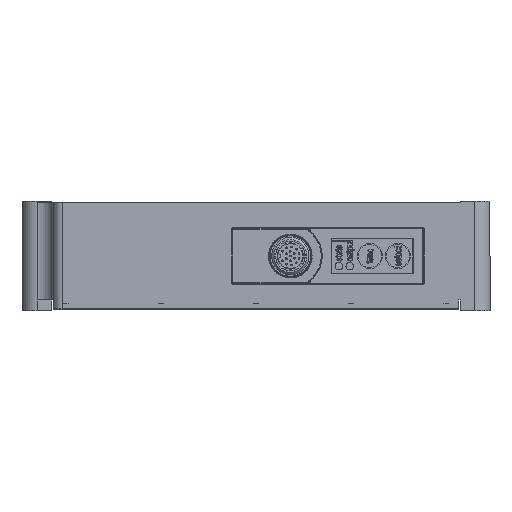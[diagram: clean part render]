
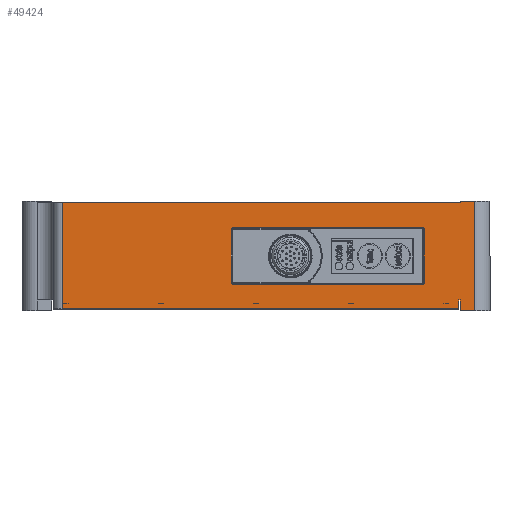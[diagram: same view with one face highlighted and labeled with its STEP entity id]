
A CAD part, left-side view. The second image highlights one B-rep face of the part: STEP entity #49424.
In plain terms, the highlighted planar face has unit normal (-1, 0, 0).
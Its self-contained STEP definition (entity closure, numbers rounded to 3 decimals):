
#667 = ORIENTED_EDGE ( 'NONE', *, *, #90499, .T. ) ;
#756 = DIRECTION ( 'NONE',  ( 0., 0., -1. ) ) ;
#903 = EDGE_CURVE ( 'NONE', #20710, #56727, #53182, .T. ) ;
#3544 = VERTEX_POINT ( 'NONE', #80439 ) ;
#5628 = VERTEX_POINT ( 'NONE', #28597 ) ;
#5887 = CARTESIAN_POINT ( 'NONE',  ( -80., 0., 3. ) ) ;
#6151 = ORIENTED_EDGE ( 'NONE', *, *, #15211, .F. ) ;
#6764 = DIRECTION ( 'NONE',  ( 1., 0., 0. ) ) ;
#7430 = PLANE ( 'NONE',  #28464 ) ;
#7732 = VECTOR ( 'NONE', #84966, 1000. ) ;
#10101 = LINE ( 'NONE', #32922, #68524 ) ;
#10209 = LINE ( 'NONE', #17957, #24334 ) ;
#11270 = ORIENTED_EDGE ( 'NONE', *, *, #52981, .F. ) ;
#11901 = CARTESIAN_POINT ( 'NONE',  ( -80., -0.4, -0.4 ) ) ;
#12112 = ORIENTED_EDGE ( 'NONE', *, *, #50638, .T. ) ;
#12732 = ORIENTED_EDGE ( 'NONE', *, *, #58825, .T. ) ;
#13074 = DIRECTION ( 'NONE',  ( 0., 0., -1. ) ) ;
#13316 = VERTEX_POINT ( 'NONE', #39112 ) ;
#14676 = VECTOR ( 'NONE', #44915, 1000. ) ;
#14681 = CARTESIAN_POINT ( 'NONE',  ( -80., 0., 0.2 ) ) ;
#14814 = DIRECTION ( 'NONE',  ( 0., 0., -1. ) ) ;
#15211 = EDGE_CURVE ( 'NONE', #90458, #3544, #69981, .T. ) ;
#15274 = VERTEX_POINT ( 'NONE', #56400 ) ;
#16815 = EDGE_CURVE ( 'NONE', #5628, #88852, #76599, .T. ) ;
#17290 = DIRECTION ( 'NONE',  ( 0., -1., 0. ) ) ;
#17957 = CARTESIAN_POINT ( 'NONE',  ( -80., 0., 0.2 ) ) ;
#18348 = CARTESIAN_POINT ( 'NONE',  ( -80., 11.85, 26.3 ) ) ;
#19536 = ORIENTED_EDGE ( 'NONE', *, *, #16815, .T. ) ;
#20710 = VERTEX_POINT ( 'NONE', #27765 ) ;
#20829 = CIRCLE ( 'NONE', #22474, 0.8 ) ;
#22474 = AXIS2_PLACEMENT_3D ( 'NONE', #81224, #52217, #14814 ) ;
#23121 = DIRECTION ( 'NONE',  ( 0., 1., 0. ) ) ;
#24204 = DIRECTION ( 'NONE',  ( 0., -1., 0. ) ) ;
#24308 = CARTESIAN_POINT ( 'NONE',  ( -80., 72.95, 34.6 ) ) ;
#24334 = VECTOR ( 'NONE', #63514, 1000. ) ;
#24897 = CARTESIAN_POINT ( 'NONE',  ( -80., 0., 3. ) ) ;
#25559 = CARTESIAN_POINT ( 'NONE',  ( -80., -0.4, 3. ) ) ;
#25965 = CARTESIAN_POINT ( 'NONE',  ( -80., 72.15, 7.9 ) ) ;
#26339 = CARTESIAN_POINT ( 'NONE',  ( -80., 0., 3. ) ) ;
#27765 = CARTESIAN_POINT ( 'NONE',  ( -80., 11.05, 25.5 ) ) ;
#28464 = AXIS2_PLACEMENT_3D ( 'NONE', #24897, #32150, #69943 ) ;
#28597 = CARTESIAN_POINT ( 'NONE',  ( -80., 72.95, 8.7 ) ) ;
#31387 = LINE ( 'NONE', #76411, #90024 ) ;
#31599 = EDGE_LOOP ( 'NONE', ( #667, #88948, #74844, #88199, #12112, #44679, #55802, #19536 ) ) ;
#31701 = DIRECTION ( 'NONE',  ( 0., 0., -1. ) ) ;
#31804 = CARTESIAN_POINT ( 'NONE',  ( -80., -0.4, 34.2 ) ) ;
#31972 = ORIENTED_EDGE ( 'NONE', *, *, #85828, .T. ) ;
#32066 = LINE ( 'NONE', #62545, #54604 ) ;
#32150 = DIRECTION ( 'NONE',  ( 1., 0., 0. ) ) ;
#32922 = CARTESIAN_POINT ( 'NONE',  ( -80., -10., 34.6 ) ) ;
#33837 = AXIS2_PLACEMENT_3D ( 'NONE', #67552, #83058, #31701 ) ;
#34668 = VERTEX_POINT ( 'NONE', #37947 ) ;
#35287 = VECTOR ( 'NONE', #86724, 1000. ) ;
#35428 = CARTESIAN_POINT ( 'NONE',  ( -80., 11.85, 8.7 ) ) ;
#35644 = CARTESIAN_POINT ( 'NONE',  ( -80., -0.4, -0.4 ) ) ;
#35751 = VERTEX_POINT ( 'NONE', #76182 ) ;
#37947 = CARTESIAN_POINT ( 'NONE',  ( -80., -0.4, -0.4 ) ) ;
#38943 = FACE_OUTER_BOUND ( 'NONE', #75829, .T. ) ;
#39112 = CARTESIAN_POINT ( 'NONE',  ( -80., -0.4, 34.6 ) ) ;
#40561 = DIRECTION ( 'NONE',  ( 0., 1., 0. ) ) ;
#41199 = AXIS2_PLACEMENT_3D ( 'NONE', #35428, #6764, #79924 ) ;
#41431 = VECTOR ( 'NONE', #40561, 1000. ) ;
#43240 = VERTEX_POINT ( 'NONE', #26339 ) ;
#43852 = VERTEX_POINT ( 'NONE', #14681 ) ;
#44679 = ORIENTED_EDGE ( 'NONE', *, *, #47132, .T. ) ;
#44714 = VERTEX_POINT ( 'NONE', #18348 ) ;
#44915 = DIRECTION ( 'NONE',  ( 0., 0., 1. ) ) ;
#45384 = CARTESIAN_POINT ( 'NONE',  ( -80., 72.15, 25.5 ) ) ;
#45469 = ORIENTED_EDGE ( 'NONE', *, *, #69538, .F. ) ;
#45613 = CARTESIAN_POINT ( 'NONE',  ( -80., 72.95, 25.5 ) ) ;
#47132 = EDGE_CURVE ( 'NONE', #35751, #62708, #31387, .T. ) ;
#48177 = DIRECTION ( 'NONE',  ( 1., 0., 0. ) ) ;
#48825 = LINE ( 'NONE', #55133, #59455 ) ;
#49424 = ADVANCED_FACE ( 'NONE', ( #38943, #73837 ), #7430, .F. ) ;
#49973 = CARTESIAN_POINT ( 'NONE',  ( -80., 11.05, 34.6 ) ) ;
#50638 = EDGE_CURVE ( 'NONE', #56727, #35751, #90695, .T. ) ;
#52217 = DIRECTION ( 'NONE',  ( 1., 0., 0. ) ) ;
#52981 = EDGE_CURVE ( 'NONE', #43240, #43852, #87275, .T. ) ;
#52984 = AXIS2_PLACEMENT_3D ( 'NONE', #45384, #48177, #756 ) ;
#53182 = LINE ( 'NONE', #49973, #54050 ) ;
#53726 = ORIENTED_EDGE ( 'NONE', *, *, #92043, .T. ) ;
#54050 = VECTOR ( 'NONE', #13074, 1000. ) ;
#54604 = VECTOR ( 'NONE', #63505, 1000. ) ;
#55133 = CARTESIAN_POINT ( 'NONE',  ( -80., -10., 3. ) ) ;
#55802 = ORIENTED_EDGE ( 'NONE', *, *, #74860, .T. ) ;
#56400 = CARTESIAN_POINT ( 'NONE',  ( -80., 127., 0.2 ) ) ;
#56448 = CARTESIAN_POINT ( 'NONE',  ( -80., 11.05, 8.7 ) ) ;
#56670 = ORIENTED_EDGE ( 'NONE', *, *, #77191, .F. ) ;
#56727 = VERTEX_POINT ( 'NONE', #56448 ) ;
#57215 = LINE ( 'NONE', #87202, #35287 ) ;
#58825 = EDGE_CURVE ( 'NONE', #15274, #43852, #10209, .T. ) ;
#59455 = VECTOR ( 'NONE', #17290, 1000. ) ;
#61575 = DIRECTION ( 'NONE',  ( 0., 0., 1. ) ) ;
#61706 = VERTEX_POINT ( 'NONE', #94051 ) ;
#61877 = EDGE_CURVE ( 'NONE', #90458, #15274, #90351, .T. ) ;
#62545 = CARTESIAN_POINT ( 'NONE',  ( -80., -10., 26.3 ) ) ;
#62708 = VERTEX_POINT ( 'NONE', #25965 ) ;
#62900 = EDGE_CURVE ( 'NONE', #61706, #44714, #32066, .T. ) ;
#63505 = DIRECTION ( 'NONE',  ( 0., -1., 0. ) ) ;
#63514 = DIRECTION ( 'NONE',  ( 0., -1., 0. ) ) ;
#65172 = LINE ( 'NONE', #35644, #89356 ) ;
#66668 = VECTOR ( 'NONE', #69049, 1000. ) ;
#67173 = CARTESIAN_POINT ( 'NONE',  ( -80., 127., 34.2 ) ) ;
#67552 = CARTESIAN_POINT ( 'NONE',  ( -80., 11.85, 25.5 ) ) ;
#68156 = LINE ( 'NONE', #31804, #14676 ) ;
#68161 = ORIENTED_EDGE ( 'NONE', *, *, #91029, .F. ) ;
#68524 = VECTOR ( 'NONE', #24204, 1000. ) ;
#69049 = DIRECTION ( 'NONE',  ( 0., 0., -1. ) ) ;
#69538 = EDGE_CURVE ( 'NONE', #34668, #86984, #65172, .T. ) ;
#69943 = DIRECTION ( 'NONE',  ( 0., 0., -1. ) ) ;
#69981 = LINE ( 'NONE', #91770, #7732 ) ;
#70726 = VERTEX_POINT ( 'NONE', #71168 ) ;
#71168 = CARTESIAN_POINT ( 'NONE',  ( -80., -5., -0.4 ) ) ;
#71537 = VERTEX_POINT ( 'NONE', #93443 ) ;
#73587 = VECTOR ( 'NONE', #61575, 1000. ) ;
#73837 = FACE_BOUND ( 'NONE', #31599, .T. ) ;
#74280 = CIRCLE ( 'NONE', #33837, 0.8 ) ;
#74844 = ORIENTED_EDGE ( 'NONE', *, *, #78717, .T. ) ;
#74861 = EDGE_CURVE ( 'NONE', #3544, #13316, #68156, .T. ) ;
#74860 = EDGE_CURVE ( 'NONE', #62708, #5628, #20829, .T. ) ;
#75829 = EDGE_LOOP ( 'NONE', ( #83422, #12732, #11270, #53726, #45469, #56670, #31972, #68161, #84216, #6151 ) ) ;
#76182 = CARTESIAN_POINT ( 'NONE',  ( -80., 11.85, 7.9 ) ) ;
#76411 = CARTESIAN_POINT ( 'NONE',  ( -80., -10., 7.9 ) ) ;
#76599 = LINE ( 'NONE', #24308, #73587 ) ;
#77191 = EDGE_CURVE ( 'NONE', #70726, #34668, #85565, .T. ) ;
#78717 = EDGE_CURVE ( 'NONE', #44714, #20710, #74280, .T. ) ;
#79924 = DIRECTION ( 'NONE',  ( 0., 0., -1. ) ) ;
#80439 = CARTESIAN_POINT ( 'NONE',  ( -80., -0.4, 34.2 ) ) ;
#80483 = DIRECTION ( 'NONE',  ( 0., 0., -1. ) ) ;
#81224 = CARTESIAN_POINT ( 'NONE',  ( -80., 72.15, 8.7 ) ) ;
#82636 = CARTESIAN_POINT ( 'NONE',  ( -80., 127., 3. ) ) ;
#83058 = DIRECTION ( 'NONE',  ( 1., 0., 0. ) ) ;
#83422 = ORIENTED_EDGE ( 'NONE', *, *, #61877, .T. ) ;
#84216 = ORIENTED_EDGE ( 'NONE', *, *, #74861, .F. ) ;
#84966 = DIRECTION ( 'NONE',  ( 0., -1., 0. ) ) ;
#85565 = LINE ( 'NONE', #11901, #41431 ) ;
#85828 = EDGE_CURVE ( 'NONE', #70726, #71537, #57215, .T. ) ;
#86724 = DIRECTION ( 'NONE',  ( 0., 0., 1. ) ) ;
#86984 = VERTEX_POINT ( 'NONE', #25559 ) ;
#87202 = CARTESIAN_POINT ( 'NONE',  ( -80., -5., 34.6 ) ) ;
#87275 = LINE ( 'NONE', #5887, #92797 ) ;
#87414 = DIRECTION ( 'NONE',  ( 0., 0., 1. ) ) ;
#88199 = ORIENTED_EDGE ( 'NONE', *, *, #903, .T. ) ;
#88566 = CIRCLE ( 'NONE', #52984, 0.8 ) ;
#88852 = VERTEX_POINT ( 'NONE', #45613 ) ;
#88948 = ORIENTED_EDGE ( 'NONE', *, *, #62900, .T. ) ;
#89356 = VECTOR ( 'NONE', #87414, 1000. ) ;
#90024 = VECTOR ( 'NONE', #23121, 1000. ) ;
#90351 = LINE ( 'NONE', #82636, #66668 ) ;
#90458 = VERTEX_POINT ( 'NONE', #67173 ) ;
#90499 = EDGE_CURVE ( 'NONE', #88852, #61706, #88566, .T. ) ;
#90695 = CIRCLE ( 'NONE', #41199, 0.8 ) ;
#91029 = EDGE_CURVE ( 'NONE', #13316, #71537, #10101, .T. ) ;
#91770 = CARTESIAN_POINT ( 'NONE',  ( -80., 135., 34.2 ) ) ;
#92043 = EDGE_CURVE ( 'NONE', #43240, #86984, #48825, .T. ) ;
#92797 = VECTOR ( 'NONE', #80483, 1000. ) ;
#93443 = CARTESIAN_POINT ( 'NONE',  ( -80., -5., 34.6 ) ) ;
#94051 = CARTESIAN_POINT ( 'NONE',  ( -80., 72.15, 26.3 ) ) ;
